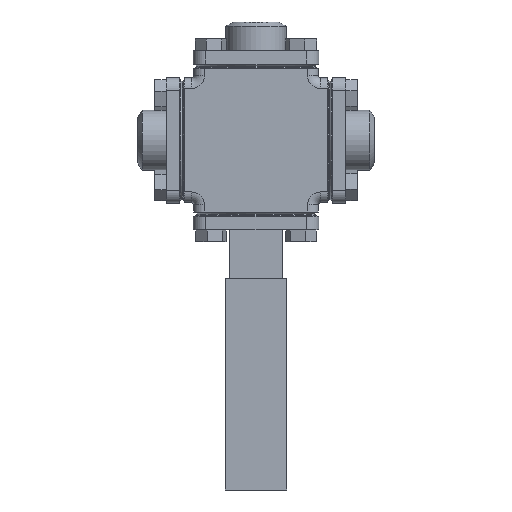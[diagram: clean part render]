
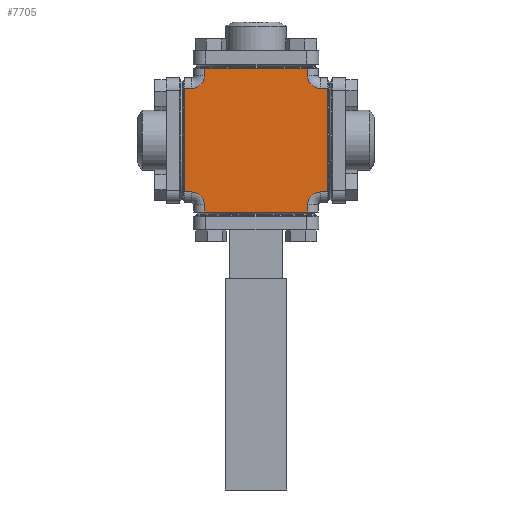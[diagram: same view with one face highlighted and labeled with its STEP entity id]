
A CAD part, front view. The second image highlights one B-rep face of the part: STEP entity #7705.
In plain terms, the highlighted planar face has unit normal (0, -1, 0).
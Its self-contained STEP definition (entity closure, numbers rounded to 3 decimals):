
#67 = CARTESIAN_POINT ( 'NONE',  ( 34., -29.5, -24.5 ) ) ;
#85 = CARTESIAN_POINT ( 'NONE',  ( -34., -29.5, -24.5 ) ) ;
#974 = PLANE ( 'NONE',  #12562 ) ;
#975 = CARTESIAN_POINT ( 'NONE',  ( 34., -29.5, 29.5 ) ) ;
#984 = DIRECTION ( 'NONE',  ( 0., 1., 0. ) ) ;
#985 = DIRECTION ( 'NONE',  ( 0., 0., 1. ) ) ;
#1555 = FACE_OUTER_BOUND ( 'NONE', #2870, .T. ) ;
#2529 = AXIS2_PLACEMENT_3D ( 'NONE', #7278, #7268, #7266 ) ;
#2533 = AXIS2_PLACEMENT_3D ( 'NONE', #7302, #7299, #7298 ) ;
#2534 = AXIS2_PLACEMENT_3D ( 'NONE', #7307, #7292, #7291 ) ;
#2535 = AXIS2_PLACEMENT_3D ( 'NONE', #7300, #7276, #7275 ) ;
#2870 = EDGE_LOOP ( 'NONE', ( #12300, #12301, #12302, #12303, #12304, #12305, #12306, #12307, #12308, #12309, #12310, #12311, #12312, #12313, #12314, #12315 ) ) ;
#3523 = EDGE_CURVE ( 'NONE', #4553, #4148, #11795, .T. ) ;
#3531 = EDGE_CURVE ( 'NONE', #4921, #4653, #11805, .T. ) ;
#3539 = EDGE_CURVE ( 'NONE', #4409, #4687, #11815, .T. ) ;
#3549 = EDGE_CURVE ( 'NONE', #4701, #4653, #5585, .T. ) ;
#3555 = EDGE_CURVE ( 'NONE', #4331, #4898, #5589, .T. ) ;
#3558 = EDGE_CURVE ( 'NONE', #4582, #4148, #5599, .T. ) ;
#3559 = EDGE_CURVE ( 'NONE', #4664, #4701, #5603, .T. ) ;
#3560 = EDGE_CURVE ( 'NONE', #4393, #4687, #5594, .T. ) ;
#3561 = EDGE_CURVE ( 'NONE', #4682, #4393, #5605, .T. ) ;
#3562 = EDGE_CURVE ( 'NONE', #4409, #4664, #5597, .T. ) ;
#3563 = EDGE_CURVE ( 'NONE', #4921, #4560, #5606, .T. ) ;
#3564 = EDGE_CURVE ( 'NONE', #4390, #4898, #5608, .T. ) ;
#3565 = EDGE_CURVE ( 'NONE', #4560, #4582, #5612, .T. ) ;
#3566 = EDGE_CURVE ( 'NONE', #4553, #4663, #5601, .T. ) ;
#3568 = EDGE_CURVE ( 'NONE', #4663, #4390, #5617, .T. ) ;
#3569 = EDGE_CURVE ( 'NONE', #4331, #4682, #5610, .T. ) ;
#4148 = VERTEX_POINT ( 'NONE', #9269 ) ;
#4331 = VERTEX_POINT ( 'NONE', #9369 ) ;
#4390 = VERTEX_POINT ( 'NONE', #9418 ) ;
#4393 = VERTEX_POINT ( 'NONE', #9421 ) ;
#4409 = VERTEX_POINT ( 'NONE', #9432 ) ;
#4553 = VERTEX_POINT ( 'NONE', #9552 ) ;
#4560 = VERTEX_POINT ( 'NONE', #9559 ) ;
#4582 = VERTEX_POINT ( 'NONE', #9579 ) ;
#4653 = VERTEX_POINT ( 'NONE', #9617 ) ;
#4663 = VERTEX_POINT ( 'NONE', #9626 ) ;
#4664 = VERTEX_POINT ( 'NONE', #9627 ) ;
#4682 = VERTEX_POINT ( 'NONE', #9644 ) ;
#4687 = VERTEX_POINT ( 'NONE', #9649 ) ;
#4701 = VERTEX_POINT ( 'NONE', #9662 ) ;
#4898 = VERTEX_POINT ( 'NONE', #67 ) ;
#4921 = VERTEX_POINT ( 'NONE', #85 ) ;
#5567 = VECTOR ( 'NONE', #7368, 1000. ) ;
#5577 = VECTOR ( 'NONE', #7301, 1000. ) ;
#5585 = LINE ( 'NONE', #7337, #5586 ) ;
#5586 = VECTOR ( 'NONE', #7336, 1000. ) ;
#5589 = LINE ( 'NONE', #7315, #5592 ) ;
#5592 = VECTOR ( 'NONE', #7314, 1000. ) ;
#5594 = LINE ( 'NONE', #7297, #5596 ) ;
#5596 = VECTOR ( 'NONE', #7295, 1000. ) ;
#5597 = LINE ( 'NONE', #7290, #5602 ) ;
#5599 = LINE ( 'NONE', #7312, #5577 ) ;
#5601 = LINE ( 'NONE', #7273, #5604 ) ;
#5602 = VECTOR ( 'NONE', #7289, 1000. ) ;
#5603 = CIRCLE ( 'NONE', #2533, 6. ) ;
#5604 = VECTOR ( 'NONE', #7272, 1000. ) ;
#5605 = CIRCLE ( 'NONE', #2534, 6. ) ;
#5606 = LINE ( 'NONE', #7286, #5607 ) ;
#5607 = VECTOR ( 'NONE', #7285, 1000. ) ;
#5608 = LINE ( 'NONE', #7284, #5609 ) ;
#5609 = VECTOR ( 'NONE', #7282, 1000. ) ;
#5610 = LINE ( 'NONE', #7265, #5614 ) ;
#5612 = CIRCLE ( 'NONE', #2535, 6. ) ;
#5614 = VECTOR ( 'NONE', #7264, 1000. ) ;
#5617 = CIRCLE ( 'NONE', #2529, 6. ) ;
#7264 = DIRECTION ( 'NONE',  ( -1., 0., 0. ) ) ;
#7265 = CARTESIAN_POINT ( 'NONE',  ( 34., -29.5, 24.5 ) ) ;
#7266 = DIRECTION ( 'NONE',  ( 0., 0., 1. ) ) ;
#7268 = DIRECTION ( 'NONE',  ( 0., 1., 0. ) ) ;
#7272 = DIRECTION ( 'NONE',  ( 0., 0., 1. ) ) ;
#7273 = CARTESIAN_POINT ( 'NONE',  ( 24.5, -29.5, 29.5 ) ) ;
#7275 = DIRECTION ( 'NONE',  ( 0., 0., 1. ) ) ;
#7276 = DIRECTION ( 'NONE',  ( 0., 1., 0. ) ) ;
#7278 = CARTESIAN_POINT ( 'NONE',  ( 30.5, -29.5, -30.5 ) ) ;
#7282 = DIRECTION ( 'NONE',  ( 1., 0., 0. ) ) ;
#7284 = CARTESIAN_POINT ( 'NONE',  ( 34., -29.5, -24.5 ) ) ;
#7285 = DIRECTION ( 'NONE',  ( 1., 0., 0. ) ) ;
#7286 = CARTESIAN_POINT ( 'NONE',  ( 34., -29.5, -24.5 ) ) ;
#7289 = DIRECTION ( 'NONE',  ( 0., 0., -1. ) ) ;
#7290 = CARTESIAN_POINT ( 'NONE',  ( -24.5, -29.5, 29.5 ) ) ;
#7291 = DIRECTION ( 'NONE',  ( 0., 0., 1. ) ) ;
#7292 = DIRECTION ( 'NONE',  ( 0., 1., 0. ) ) ;
#7295 = DIRECTION ( 'NONE',  ( 0., 0., 1. ) ) ;
#7297 = CARTESIAN_POINT ( 'NONE',  ( 24.5, -29.5, 29.5 ) ) ;
#7298 = DIRECTION ( 'NONE',  ( 0., 0., 1. ) ) ;
#7299 = DIRECTION ( 'NONE',  ( 0., 1., 0. ) ) ;
#7300 = CARTESIAN_POINT ( 'NONE',  ( -30.5, -29.5, -30.5 ) ) ;
#7301 = DIRECTION ( 'NONE',  ( 0., 0., -1. ) ) ;
#7302 = CARTESIAN_POINT ( 'NONE',  ( -30.5, -29.5, 30.5 ) ) ;
#7307 = CARTESIAN_POINT ( 'NONE',  ( 30.5, -29.5, 30.5 ) ) ;
#7312 = CARTESIAN_POINT ( 'NONE',  ( -24.5, -29.5, 29.5 ) ) ;
#7314 = DIRECTION ( 'NONE',  ( 0., 0., -1. ) ) ;
#7315 = CARTESIAN_POINT ( 'NONE',  ( 34., -29.5, 29.5 ) ) ;
#7336 = DIRECTION ( 'NONE',  ( -1., 0., 0. ) ) ;
#7337 = CARTESIAN_POINT ( 'NONE',  ( 34., -29.5, 24.5 ) ) ;
#7368 = DIRECTION ( 'NONE',  ( 1., 0., 0. ) ) ;
#7369 = CARTESIAN_POINT ( 'NONE',  ( -29.5, -29.5, 34. ) ) ;
#7396 = DIRECTION ( 'NONE',  ( 0., 0., 1. ) ) ;
#7397 = CARTESIAN_POINT ( 'NONE',  ( -34., -29.5, -29.5 ) ) ;
#7426 = DIRECTION ( 'NONE',  ( -1., 0., 0. ) ) ;
#7427 = CARTESIAN_POINT ( 'NONE',  ( 29.5, -29.5, -34. ) ) ;
#7705 = ADVANCED_FACE ( 'NONE', ( #1555 ), #974, .F. ) ;
#9269 = CARTESIAN_POINT ( 'NONE',  ( -24.5, -29.5, -34. ) ) ;
#9369 = CARTESIAN_POINT ( 'NONE',  ( 34., -29.5, 24.5 ) ) ;
#9418 = CARTESIAN_POINT ( 'NONE',  ( 30.5, -29.5, -24.5 ) ) ;
#9421 = CARTESIAN_POINT ( 'NONE',  ( 24.5, -29.5, 30.5 ) ) ;
#9432 = CARTESIAN_POINT ( 'NONE',  ( -24.5, -29.5, 34. ) ) ;
#9552 = CARTESIAN_POINT ( 'NONE',  ( 24.5, -29.5, -34. ) ) ;
#9559 = CARTESIAN_POINT ( 'NONE',  ( -30.5, -29.5, -24.5 ) ) ;
#9579 = CARTESIAN_POINT ( 'NONE',  ( -24.5, -29.5, -30.5 ) ) ;
#9617 = CARTESIAN_POINT ( 'NONE',  ( -34., -29.5, 24.5 ) ) ;
#9626 = CARTESIAN_POINT ( 'NONE',  ( 24.5, -29.5, -30.5 ) ) ;
#9627 = CARTESIAN_POINT ( 'NONE',  ( -24.5, -29.5, 30.5 ) ) ;
#9644 = CARTESIAN_POINT ( 'NONE',  ( 30.5, -29.5, 24.5 ) ) ;
#9649 = CARTESIAN_POINT ( 'NONE',  ( 24.5, -29.5, 34. ) ) ;
#9662 = CARTESIAN_POINT ( 'NONE',  ( -30.5, -29.5, 24.5 ) ) ;
#11784 = VECTOR ( 'NONE', #7426, 1000. ) ;
#11795 = LINE ( 'NONE', #7427, #11784 ) ;
#11805 = LINE ( 'NONE', #7397, #11811 ) ;
#11811 = VECTOR ( 'NONE', #7396, 1000. ) ;
#11815 = LINE ( 'NONE', #7369, #5567 ) ;
#12300 = ORIENTED_EDGE ( 'NONE', *, *, #3561, .T. ) ;
#12301 = ORIENTED_EDGE ( 'NONE', *, *, #3560, .T. ) ;
#12302 = ORIENTED_EDGE ( 'NONE', *, *, #3539, .F. ) ;
#12303 = ORIENTED_EDGE ( 'NONE', *, *, #3562, .T. ) ;
#12304 = ORIENTED_EDGE ( 'NONE', *, *, #3559, .T. ) ;
#12305 = ORIENTED_EDGE ( 'NONE', *, *, #3549, .T. ) ;
#12306 = ORIENTED_EDGE ( 'NONE', *, *, #3531, .F. ) ;
#12307 = ORIENTED_EDGE ( 'NONE', *, *, #3563, .T. ) ;
#12308 = ORIENTED_EDGE ( 'NONE', *, *, #3565, .T. ) ;
#12309 = ORIENTED_EDGE ( 'NONE', *, *, #3558, .T. ) ;
#12310 = ORIENTED_EDGE ( 'NONE', *, *, #3523, .F. ) ;
#12311 = ORIENTED_EDGE ( 'NONE', *, *, #3566, .T. ) ;
#12312 = ORIENTED_EDGE ( 'NONE', *, *, #3568, .T. ) ;
#12313 = ORIENTED_EDGE ( 'NONE', *, *, #3564, .T. ) ;
#12314 = ORIENTED_EDGE ( 'NONE', *, *, #3555, .F. ) ;
#12315 = ORIENTED_EDGE ( 'NONE', *, *, #3569, .T. ) ;
#12562 = AXIS2_PLACEMENT_3D ( 'NONE', #975, #984, #985 ) ;
